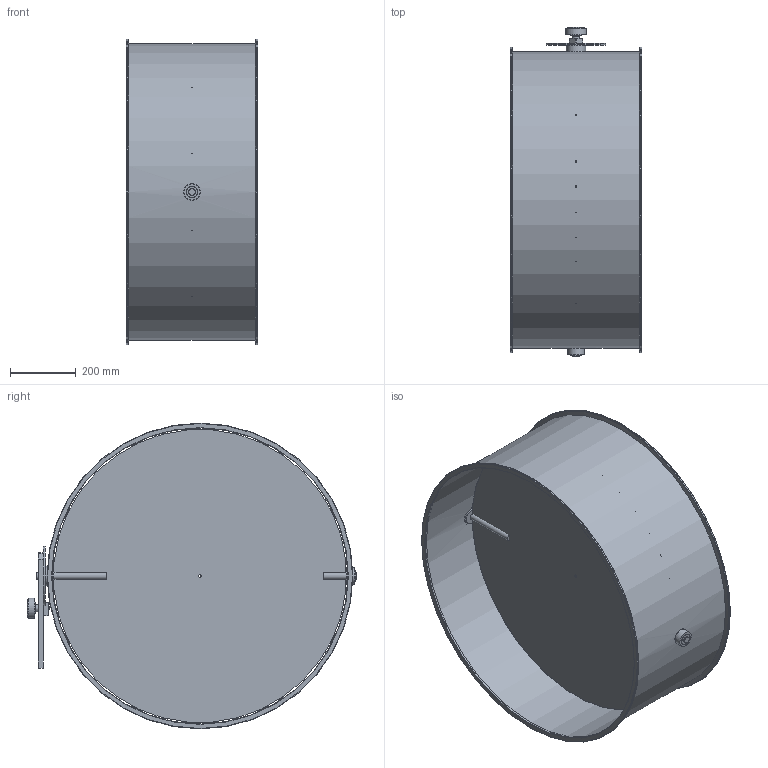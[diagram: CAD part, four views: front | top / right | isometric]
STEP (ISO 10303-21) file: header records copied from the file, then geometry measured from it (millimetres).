
FILE_DESCRIPTION(/* description */ (''),/* implementation_level */ '2;1');
FILE_NAME(/* name */ 'METU_Drosselklappe_Flansch_verzinkt_EA116-80B__900_L400_handbetaetigt.stp',/* time_stamp */ '2022-04-22T13:53:46+02:00',/* author */ (''),/* organization */ (''),/* preprocessor_version */ 'ST-DEVELOPER v11',/* originating_system */ 'SIEMENS UGS NX 6.0',/* authorisation */ '');
FILE_SCHEMA (('CONFIG_CONTROL_DESIGN'));
Length unit declared in the file: millimetre
Products named in the file (1): d.ga332Aq8ry
Bounding box: 400 x 1002.49 x 930 mm (x, y, z)
Volume: 3261625.1 mm3; surface area: 3825053.4 mm2
Topology: 12 solids, 12 shells, 126 faces, 272 edges, 177 vertices
Faces by surface type: plane 42, cylinder 38, torus 24, bspline 18, cone 2, sphere 2
Full cylindrical faces by diameter (mm): 8 x8, 8.5 x1, 10 x1, 11 x1, 20 x5, 22 x1, 35 x3, 35.85 x2, 36 x2, 49 x1, 50 x2, 54 x1, 59 x1, 62 x1, 180 x1, 900 x1, 902.4 x1, 930 x2
Entity records: 4014 total; most frequent: CARTESIAN_POINT 1443, DIRECTION 490, ORIENTED_EDGE 430, AXIS2_PLACEMENT_3D 224, EDGE_CURVE 215, EDGE_LOOP 214, VERTEX_POINT 163, FACE_BOUND 156
